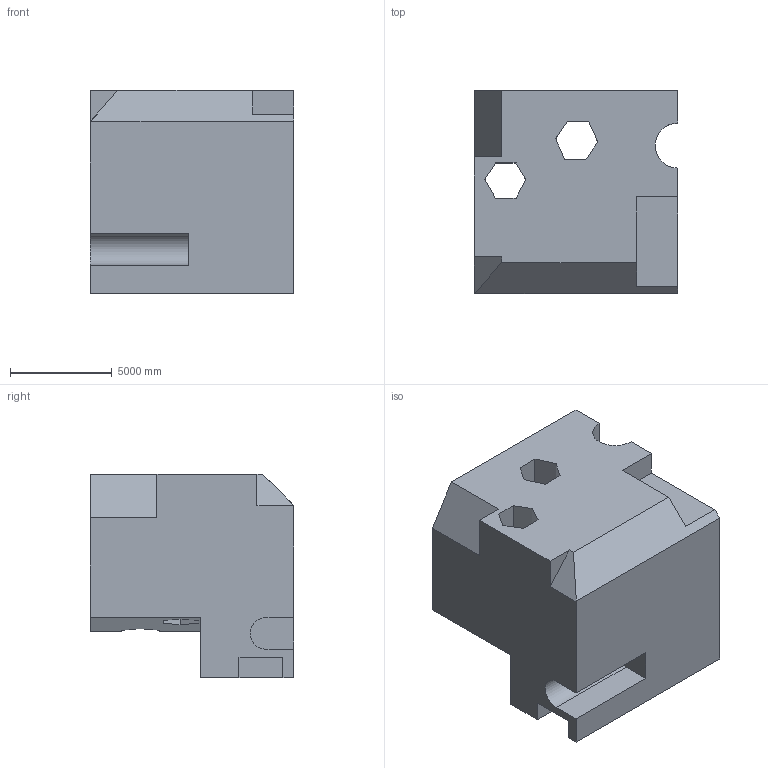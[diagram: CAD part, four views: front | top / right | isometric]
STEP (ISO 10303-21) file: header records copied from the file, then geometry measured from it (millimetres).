
FILE_DESCRIPTION (( 'STEP AP203' ), '1' );
FILE_NAME ('990.STEP', '2022-07-29T15:00:55', ( 'user' ), ( '' ), 'SwSTEP 2.0', 'SolidWorks 2021', '' );
FILE_SCHEMA (( 'CONFIG_CONTROL_DESIGN' ));
Length unit declared in the file: centimetre
Products named in the file (1): 990
Bounding box: 10000 x 10000 x 10000 mm (x, y, z)
Volume: 751495698759.9 mm3; surface area: 669260001.9 mm2
Topology: 1 solids, 1 shells, 39 faces, 114 edges, 76 vertices
Faces by surface type: plane 37, cylinder 2
Entity records: 1356 total; most frequent: CARTESIAN_POINT 233, ORIENTED_EDGE 228, DIRECTION 196, EDGE_CURVE 114, LINE 110, VECTOR 110, VERTEX_POINT 76, AXIS2_PLACEMENT_3D 43
